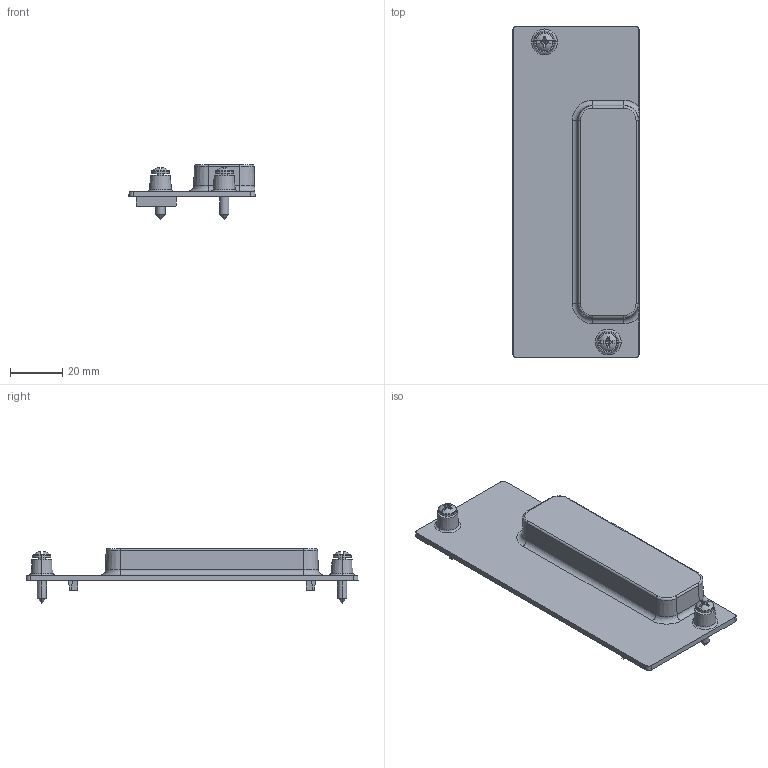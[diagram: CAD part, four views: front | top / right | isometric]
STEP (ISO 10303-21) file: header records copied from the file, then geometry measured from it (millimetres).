
FILE_DESCRIPTION((''),'2;1');
FILE_NAME('CU_CFP_BLANK_COVER','2007-07-16T',('chrisj'),(''),'PRO/ENGINEER BY PARAMETRIC TECHNOLOGY CORPORATION, 2006300','PRO/ENGINEER BY PARAMETRIC TECHNOLOGY CORPORATION, 2006300','');
FILE_SCHEMA(('AUTOMOTIVE_DESIGN_CC2 { 1 2 10303 214 -1 1 5 2 }'));
Length unit declared in the file: inch
Products named in the file (1): CU_CFP_BLANK_COVER
Bounding box: 48.26 x 127 x 21.03 mm (x, y, z)
Volume: 17139.4 mm3; surface area: 17652.3 mm2
Topology: 3 solids, 3 shells, 204 faces, 511 edges, 280 vertices
Faces by surface type: plane 81, bspline 40, cone 28, cylinder 27, torus 24, sphere 4
Entity records: 6556 total; most frequent: CARTESIAN_POINT 1981, ORIENTED_EDGE 934, DIRECTION 911, EDGE_CURVE 467, AXIS2_PLACEMENT_3D 342, VERTEX_POINT 318, VECTOR 227, LINE 227
